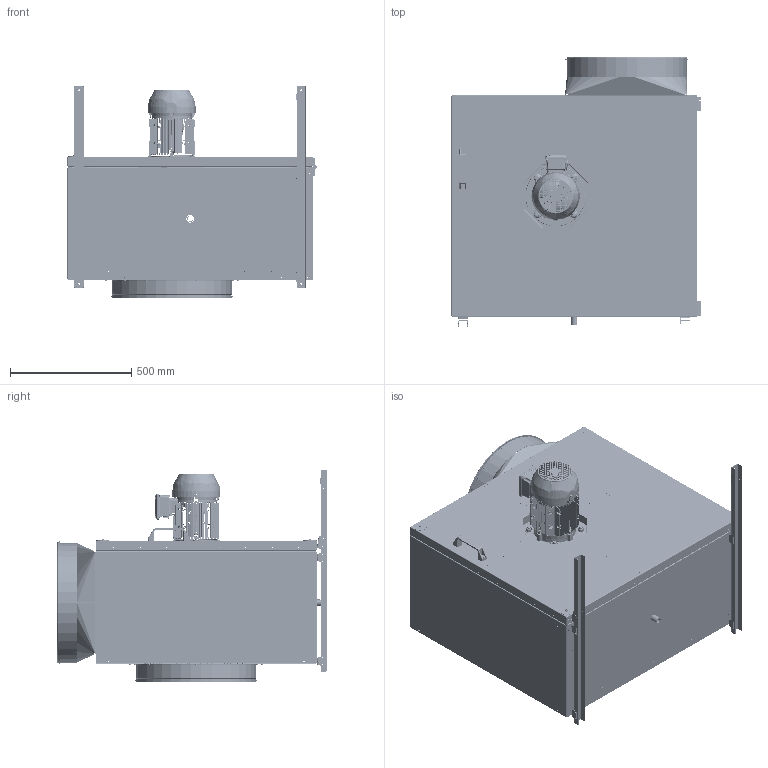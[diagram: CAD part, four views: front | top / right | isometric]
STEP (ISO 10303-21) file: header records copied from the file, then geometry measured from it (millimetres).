
FILE_DESCRIPTION (( 'STEP AP203' ), '1' );
FILE_NAME ('145903-00_MPS560D4F430_step.step', '2018-10-09T11:16:35', ( '' ), ( '' ), 'SwSTEP 2.0', 'SolidWorks 2017', '' );
FILE_SCHEMA (( 'CONFIG_CONTROL_DESIGN' ));
Length unit declared in the file: millimetre
Products named in the file (1): 145903-00_MPS560D4F430_step
Bounding box: 1030.62 x 1111.84 x 876 mm (x, y, z)
Surface area: 14996364.4 mm2 (no closed solid volume)
Topology: 0 solids, 500 shells, 3197 faces, 21535 edges, 18298 vertices
Faces by surface type: cylinder 1419, plane 1058, bspline 486, cone 144, torus 90
Entity records: 261635 total; most frequent: CARTESIAN_POINT 110246, DIRECTION 29300, ORIENTED_EDGE 25847, EDGE_CURVE 21519, VERTEX_POINT 18298, VECTOR 10002, LINE 10002, AXIS2_PLACEMENT_3D 9649
